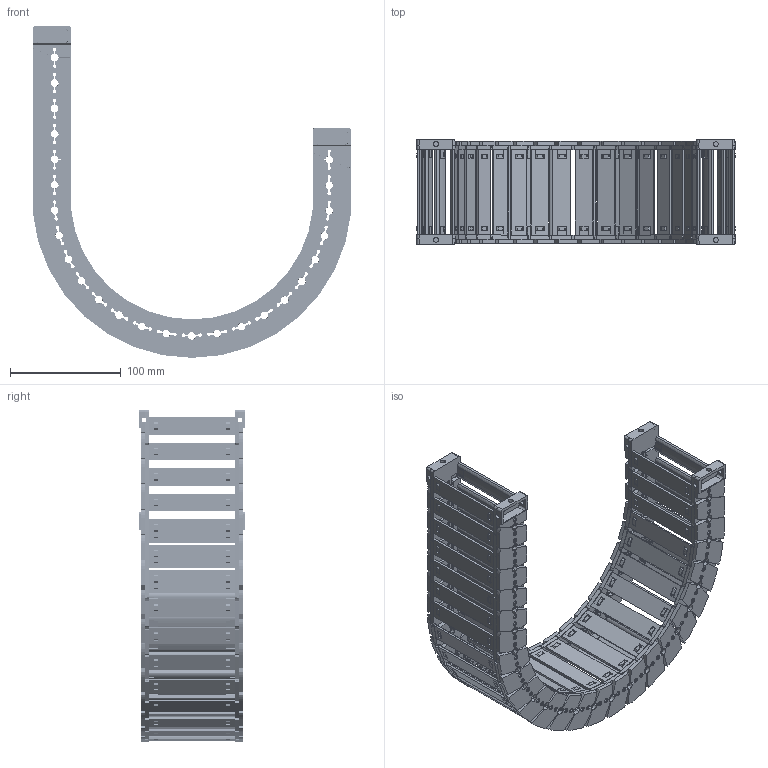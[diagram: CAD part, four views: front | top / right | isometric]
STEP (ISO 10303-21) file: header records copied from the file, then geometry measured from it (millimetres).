
FILE_DESCRIPTION((''),'2;1');
FILE_NAME('JY-28X77-R125_ASM','2026-03-25T20:03:22',('admin'),(''),'CREO PARAMETRIC BY PTC INC, 2021023','CREO PARAMETRIC BY PTC INC, 2021023','');
FILE_SCHEMA(('CONFIG_CONTROL_DESIGN'));
Length unit declared in the file: millimetre
Products named in the file (11): 28XL-L; 25-35XL-YP; 28XL-R; ASM0001_ASM; 28-LTT-A-L; 28-LTT-A-R; 28XL-LTT-A_ASM; 28-LTT-B-L; 28-LTT-B-R; 28XL-LTT-B_ASM; JY-28X77-R125_ASM
Assembly tree (38 placements, depth 3):
  JY-28X77-R125_ASM
    ASM0001_ASM  x24
      28XL-L
      25-35XL-YP
      28XL-R
    28XL-LTT-A_ASM
      28-LTT-A-L
      25-35XL-YP  x2
      28-LTT-A-R
    28XL-LTT-B_ASM
      28-LTT-B-L
      25-35XL-YP  x2
      28-LTT-B-R
Bounding box: 287.57 x 95.5 x 299.79 mm (x, y, z)
Volume: 466867.1 mm3; surface area: 336970.5 mm2
Topology: 104 solids, 104 shells, 8438 faces, 25084 edges, 16750 vertices
Faces by surface type: plane 5532, cone 1522, cylinder 1210, bspline 174
Entity records: 29143 total; most frequent: CARTESIAN_POINT 9496, ORIENTED_EDGE 4352, DIRECTION 3667, EDGE_CURVE 2176, VERTEX_POINT 1454, VECTOR 1365, LINE 1365, AXIS2_PLACEMENT_3D 1151
